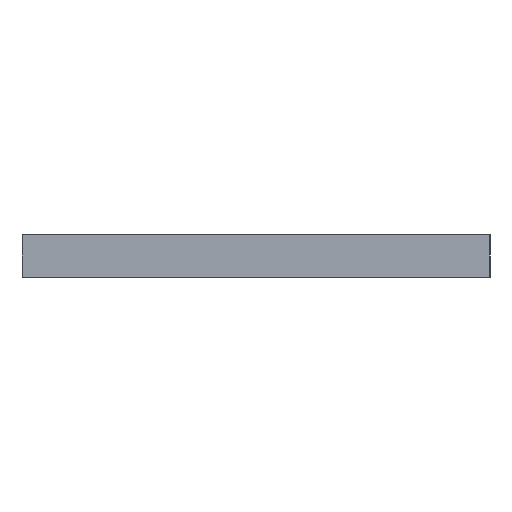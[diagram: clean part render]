
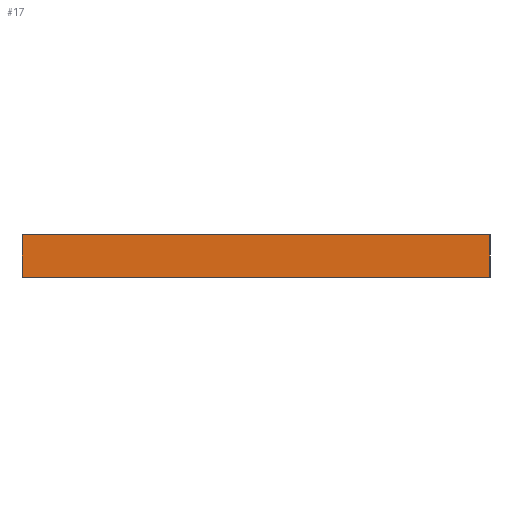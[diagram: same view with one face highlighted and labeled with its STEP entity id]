
A CAD part, left-side view. The second image highlights one B-rep face of the part: STEP entity #17.
In plain terms, the highlighted planar face has unit normal (-1, 0, 0).
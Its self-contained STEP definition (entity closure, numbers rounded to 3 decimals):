
#17 = ADVANCED_FACE('',(#18),#32,.F.);
#18 = FACE_BOUND('',#19,.F.);
#19 = EDGE_LOOP('',(#20,#55,#83,#111));
#20 = ORIENTED_EDGE('',*,*,#21,.F.);
#21 = EDGE_CURVE('',#22,#24,#26,.T.);
#22 = VERTEX_POINT('',#23);
#23 = CARTESIAN_POINT('',(24.,-11.,16.));
#24 = VERTEX_POINT('',#25);
#25 = CARTESIAN_POINT('',(24.,-11.,18.));
#26 = SURFACE_CURVE('',#27,(#31,#43),.PCURVE_S1.);
#27 = LINE('',#28,#29);
#28 = CARTESIAN_POINT('',(24.,-11.,16.));
#29 = VECTOR('',#30,1.);
#30 = DIRECTION('',(0.,0.,1.));
#31 = PCURVE('',#32,#37);
#32 = PLANE('',#33);
#33 = AXIS2_PLACEMENT_3D('',#34,#35,#36);
#34 = CARTESIAN_POINT('',(24.,-11.,16.));
#35 = DIRECTION('',(1.,0.,-0.));
#36 = DIRECTION('',(0.,0.,1.));
#37 = DEFINITIONAL_REPRESENTATION('',(#38),#42);
#38 = LINE('',#39,#40);
#39 = CARTESIAN_POINT('',(0.,0.));
#40 = VECTOR('',#41,1.);
#41 = DIRECTION('',(1.,0.));
#42 = ( GEOMETRIC_REPRESENTATION_CONTEXT(2) 
PARAMETRIC_REPRESENTATION_CONTEXT() REPRESENTATION_CONTEXT('2D SPACE',''
  ) );
#43 = PCURVE('',#44,#49);
#44 = PLANE('',#45);
#45 = AXIS2_PLACEMENT_3D('',#46,#47,#48);
#46 = CARTESIAN_POINT('',(24.,-11.,16.));
#47 = DIRECTION('',(-0.,1.,0.));
#48 = DIRECTION('',(0.,0.,1.));
#49 = DEFINITIONAL_REPRESENTATION('',(#50),#54);
#50 = LINE('',#51,#52);
#51 = CARTESIAN_POINT('',(0.,0.));
#52 = VECTOR('',#53,1.);
#53 = DIRECTION('',(1.,0.));
#54 = ( GEOMETRIC_REPRESENTATION_CONTEXT(2) 
PARAMETRIC_REPRESENTATION_CONTEXT() REPRESENTATION_CONTEXT('2D SPACE',''
  ) );
#55 = ORIENTED_EDGE('',*,*,#56,.T.);
#56 = EDGE_CURVE('',#22,#57,#59,.T.);
#57 = VERTEX_POINT('',#58);
#58 = CARTESIAN_POINT('',(24.,11.,16.));
#59 = SURFACE_CURVE('',#60,(#64,#71),.PCURVE_S1.);
#60 = LINE('',#61,#62);
#61 = CARTESIAN_POINT('',(24.,-11.,16.));
#62 = VECTOR('',#63,1.);
#63 = DIRECTION('',(-0.,1.,0.));
#64 = PCURVE('',#32,#65);
#65 = DEFINITIONAL_REPRESENTATION('',(#66),#70);
#66 = LINE('',#67,#68);
#67 = CARTESIAN_POINT('',(0.,0.));
#68 = VECTOR('',#69,1.);
#69 = DIRECTION('',(0.,-1.));
#70 = ( GEOMETRIC_REPRESENTATION_CONTEXT(2) 
PARAMETRIC_REPRESENTATION_CONTEXT() REPRESENTATION_CONTEXT('2D SPACE',''
  ) );
#71 = PCURVE('',#72,#77);
#72 = PLANE('',#73);
#73 = AXIS2_PLACEMENT_3D('',#74,#75,#76);
#74 = CARTESIAN_POINT('',(24.,-11.,16.));
#75 = DIRECTION('',(0.,0.,1.));
#76 = DIRECTION('',(1.,0.,-0.));
#77 = DEFINITIONAL_REPRESENTATION('',(#78),#82);
#78 = LINE('',#79,#80);
#79 = CARTESIAN_POINT('',(0.,0.));
#80 = VECTOR('',#81,1.);
#81 = DIRECTION('',(0.,1.));
#82 = ( GEOMETRIC_REPRESENTATION_CONTEXT(2) 
PARAMETRIC_REPRESENTATION_CONTEXT() REPRESENTATION_CONTEXT('2D SPACE',''
  ) );
#83 = ORIENTED_EDGE('',*,*,#84,.T.);
#84 = EDGE_CURVE('',#57,#85,#87,.T.);
#85 = VERTEX_POINT('',#86);
#86 = CARTESIAN_POINT('',(24.,11.,18.));
#87 = SURFACE_CURVE('',#88,(#92,#99),.PCURVE_S1.);
#88 = LINE('',#89,#90);
#89 = CARTESIAN_POINT('',(24.,11.,16.));
#90 = VECTOR('',#91,1.);
#91 = DIRECTION('',(0.,0.,1.));
#92 = PCURVE('',#32,#93);
#93 = DEFINITIONAL_REPRESENTATION('',(#94),#98);
#94 = LINE('',#95,#96);
#95 = CARTESIAN_POINT('',(0.,-22.));
#96 = VECTOR('',#97,1.);
#97 = DIRECTION('',(1.,0.));
#98 = ( GEOMETRIC_REPRESENTATION_CONTEXT(2) 
PARAMETRIC_REPRESENTATION_CONTEXT() REPRESENTATION_CONTEXT('2D SPACE',''
  ) );
#99 = PCURVE('',#100,#105);
#100 = PLANE('',#101);
#101 = AXIS2_PLACEMENT_3D('',#102,#103,#104);
#102 = CARTESIAN_POINT('',(24.,11.,16.));
#103 = DIRECTION('',(-0.,1.,0.));
#104 = DIRECTION('',(0.,0.,1.));
#105 = DEFINITIONAL_REPRESENTATION('',(#106),#110);
#106 = LINE('',#107,#108);
#107 = CARTESIAN_POINT('',(0.,0.));
#108 = VECTOR('',#109,1.);
#109 = DIRECTION('',(1.,0.));
#110 = ( GEOMETRIC_REPRESENTATION_CONTEXT(2) 
PARAMETRIC_REPRESENTATION_CONTEXT() REPRESENTATION_CONTEXT('2D SPACE',''
  ) );
#111 = ORIENTED_EDGE('',*,*,#112,.F.);
#112 = EDGE_CURVE('',#24,#85,#113,.T.);
#113 = SURFACE_CURVE('',#114,(#118,#125),.PCURVE_S1.);
#114 = LINE('',#115,#116);
#115 = CARTESIAN_POINT('',(24.,-11.,18.));
#116 = VECTOR('',#117,1.);
#117 = DIRECTION('',(-0.,1.,0.));
#118 = PCURVE('',#32,#119);
#119 = DEFINITIONAL_REPRESENTATION('',(#120),#124);
#120 = LINE('',#121,#122);
#121 = CARTESIAN_POINT('',(2.,0.));
#122 = VECTOR('',#123,1.);
#123 = DIRECTION('',(0.,-1.));
#124 = ( GEOMETRIC_REPRESENTATION_CONTEXT(2) 
PARAMETRIC_REPRESENTATION_CONTEXT() REPRESENTATION_CONTEXT('2D SPACE',''
  ) );
#125 = PCURVE('',#126,#131);
#126 = PLANE('',#127);
#127 = AXIS2_PLACEMENT_3D('',#128,#129,#130);
#128 = CARTESIAN_POINT('',(24.,-11.,18.));
#129 = DIRECTION('',(0.,0.,1.));
#130 = DIRECTION('',(1.,0.,-0.));
#131 = DEFINITIONAL_REPRESENTATION('',(#132),#136);
#132 = LINE('',#133,#134);
#133 = CARTESIAN_POINT('',(0.,0.));
#134 = VECTOR('',#135,1.);
#135 = DIRECTION('',(0.,1.));
#136 = ( GEOMETRIC_REPRESENTATION_CONTEXT(2) 
PARAMETRIC_REPRESENTATION_CONTEXT() REPRESENTATION_CONTEXT('2D SPACE',''
  ) );
